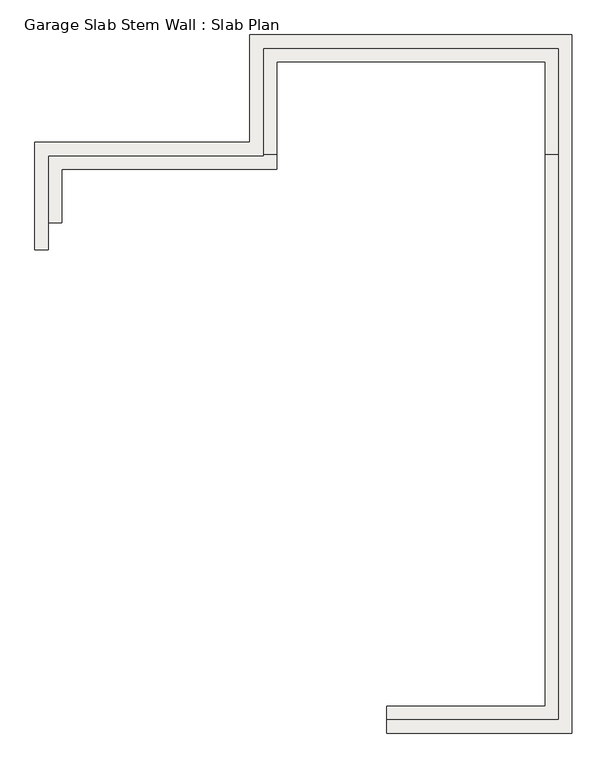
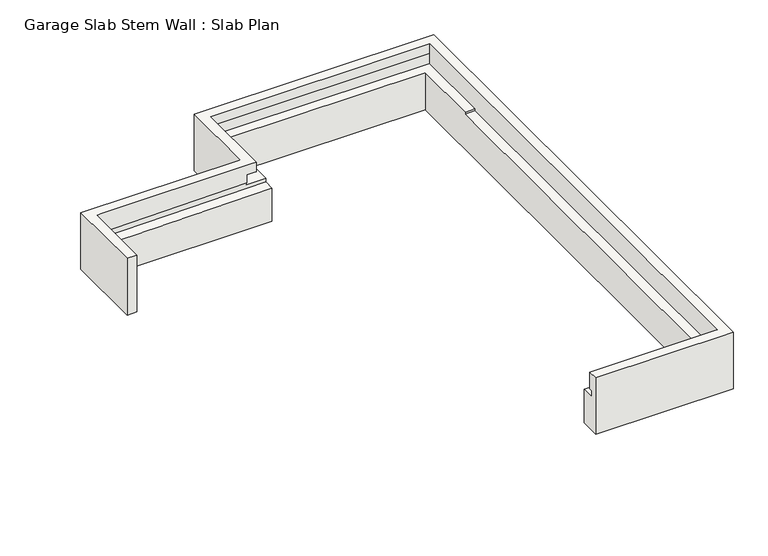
"""IFC4 building model written with IfcOpenShell, lengths in millimetres: slab geometry, Garage Slab Stem Wall : Slab Plan."""

from ifc_helpers import new_model, si_unit, origin, place, context, project, spatial, faceted_brep, source, transform, mapped, element, save


def garage_slab_stem_wall_slab_plan_481d7022(model_context):
    return source(origin(), model_context, "Body", "Brep", [
        faceted_brep([(-11405.5178637, 4872.5349287, -914.4), (-11405.5178637, 4872.5349287, -263.2232732), (-11405.5178637, 4872.5349287, 0.0), (-11405.5178637, 5024.9349287, 0.0), (-11405.5178637, 5024.9349287, -263.2232732), (-11405.5178637, 5024.9349287, -266.3931878), (-11405.5178637, 4969.0442801, -266.3931878), (-11405.5178637, 4969.0442801, -367.9982732), (-11405.5178637, 5177.3349287, -367.9982732), (-11405.5178637, 5177.3349287, -914.4), (-9303.6678637, 4872.5349287, -914.4), (-9303.6678637, 4872.5349287, -711.2), (-9303.6678637, 4872.5349287, -388.6398438), (-9303.6678637, 4872.5349287, 0.0), (-9608.4678637, 5177.3349287, -914.4), (-9608.4678637, 5177.3349287, -350.017921), (-9303.6678637, 12797.3349287, 0.0), (-9303.6678637, 12797.3349287, -914.4), (-9608.4678637, 12492.5349287, -914.4), (-9608.4678637, 11441.3883247, -350.017921), (-9608.4678637, 11441.3883247, -318.0567253), (-9608.4678637, 12492.5349287, -318.0567253), (-9608.4678637, 12492.5349287, -350.017921), (-12961.2678637, 12797.3349287, 0.0), (-12961.2678637, 12797.3349287, -914.4), (-12656.4678637, 12492.5349287, -914.4), (-12656.4678637, 12492.5349287, -318.0567253), (-12656.4678637, 12492.5349287, -380.5146315), (-12961.2678637, 11578.1349287, 0.0), (-12961.2678637, 11600.3599287, 0.0), (-12961.2678637, 11578.1349287, -914.4), (-12961.2678637, 11578.1349287, -152.4), (-12656.4678637, 11273.3349287, -914.4), (-12656.4678637, 11441.3883247, -318.0567253), (-12656.4678637, 11441.3883247, -380.5146315), (-12656.4678637, 11273.3349287, -380.5146315), (-15399.6678637, 11578.1349287, 0.0), (-12973.9678637, 11578.1349287, 0.0), (-15399.6678637, 11578.1349287, -914.4), (-15094.8678637, 11273.3349287, -914.4), (-15094.8678637, 11273.3349287, -404.9119999), (-15247.2678637, 10358.9349287, -914.4), (-15247.2678637, 10358.9349287, -304.8), (-15247.2678637, 10358.9349287, 0.0), (-15399.6678637, 10358.9349287, 0.0), (-15399.6678637, 10358.9349287, -914.4), (-15094.8678637, 10663.7349287, -914.4), (-15094.8678637, 10663.7349287, -404.9119999), (-9456.0678637, 5024.9349287, 0.0), (-9456.0678637, 5024.9349287, -246.888), (-9456.0678637, 10911.3849287, 0.0), (-9456.0678637, 11025.6849287, 0.0), (-9456.0678637, 12644.9349287, 0.0), (-9456.0678637, 12644.9349287, -152.4), (-9456.0678637, 12647.7160916, -152.4), (-9456.0678637, 12647.7160916, -246.888), (-9456.0678637, 12647.7160916, -318.0567253), (-9456.0678637, 11441.3883247, -318.0567253), (-9456.0678637, 11441.3883247, -348.4930854), (-9456.0678637, 4969.0442801, -348.4930854), (-9456.0678637, 4969.0442801, -246.888), (-12808.8678637, 12644.9349287, 0.0), (-12808.8678637, 12644.9349287, -152.4), (-12808.8678637, 11425.7349287, 0.0), (-12808.8678637, 11425.7349287, -152.4), (-12859.6678637, 11425.7349287, 0.0), (-12973.9678637, 11425.7349287, 0.0), (-15164.7178637, 11425.7349287, 0.0), (-15247.2678637, 11425.7349287, 0.0), (-15247.2678637, 11425.7349287, -304.83175), (-12954.1241137, 11425.7349287, -281.8877404), (-12954.1241137, 11425.7349287, -152.4), (-12859.6678637, 11425.7349287, -152.4), (-15247.2678637, 10663.7349287, -914.4), (-15247.2678637, 10663.7349287, -406.4368354), (-15247.2678637, 11441.3883247, -406.4368354), (-15247.2678637, 11441.3883247, -304.83175), (-12954.1241137, 12647.7160916, -152.4), (-12954.1241137, 12647.7160916, -281.8877404), (-12954.1241137, 12647.7160916, -318.0567253), (-12954.1241137, 11441.3883247, -318.0567253), (-12954.1241137, 11441.3883247, -281.8877404)], [[[0, 1, 2, 3, 4, 5, 6, 7, 8, 9]], [[2, 1, 0, 10, 11, 12, 13]], [[14, 9, 8, 15]], [[16, 13, 12, 11, 10, 17]], [[18, 14, 15, 19, 20, 21, 22]], [[23, 16, 17, 24]], [[25, 18, 22, 21, 26, 27]], [[28, 29, 23, 24, 30, 31]], [[32, 25, 27, 26, 33, 34, 35]], [[36, 37, 28, 31, 30, 38]], [[39, 32, 35, 40]], [[41, 42, 43, 44, 45]], [[44, 36, 38, 45]], [[46, 39, 40, 47]], [[3, 48, 49, 5, 4]], [[48, 50, 51, 52, 53, 54, 55, 56, 57, 58, 59, 60, 49]], [[52, 61, 62, 53]], [[61, 63, 64, 62]], [[63, 65, 66, 67, 68, 69, 70, 71, 72, 64]], [[68, 43, 42, 41, 73, 74, 75, 76, 69]], [[2, 13, 16, 23, 29, 28, 37, 36, 44, 43, 68, 67, 66, 65, 63, 61, 52, 51, 50, 48, 3]], [[9, 14, 18, 25, 32, 39, 46, 73, 41, 45, 38, 30, 24, 17, 10, 0]], [[54, 77, 78, 79, 56, 55]], [[77, 54, 53, 62, 64, 72, 71]], [[56, 79, 80, 33, 26, 21, 20, 57]], [[79, 78, 77, 71, 70, 81, 80]], [[74, 73, 46, 47]], [[76, 75, 34, 33, 80, 81]], [[60, 59, 7, 6]], [[69, 76, 81, 70]], [[75, 74, 47, 40, 35, 34]], [[59, 58, 19, 15, 8, 7]], [[58, 57, 20, 19]], [[49, 60, 6, 5]]]),
    ])


if __name__ == "__main__":
    model = new_model("IFC4")
    model_context = context("Model", 3, world=origin())
    ifc_project = project(units=[si_unit("LENGTHUNIT", "METRE", prefix="MILLI")], contexts=[model_context])
    site = spatial("IfcSite", under=ifc_project)
    building = spatial("IfcBuilding", under=site)
    placement = place(None, origin())
    garage_slab_stem_wall_slab_plan_shape = garage_slab_stem_wall_slab_plan_481d7022(model_context)
    element("IfcSlab", 1, ObjectType="Garage Slab Stem Wall : Slab Plan", at=placement, inside=building, context=model_context, shape_type="MappedRepresentation", body=[
        mapped(garage_slab_stem_wall_slab_plan_shape, transform((0.0, 0.0, 0.0), x_axis=(1.0, 0.0, 0.0), y_axis=(0.0, 1.0, 0.0), z_axis=(0.0, 0.0, 1.0))),
    ])
    save(model, "model.ifc")
